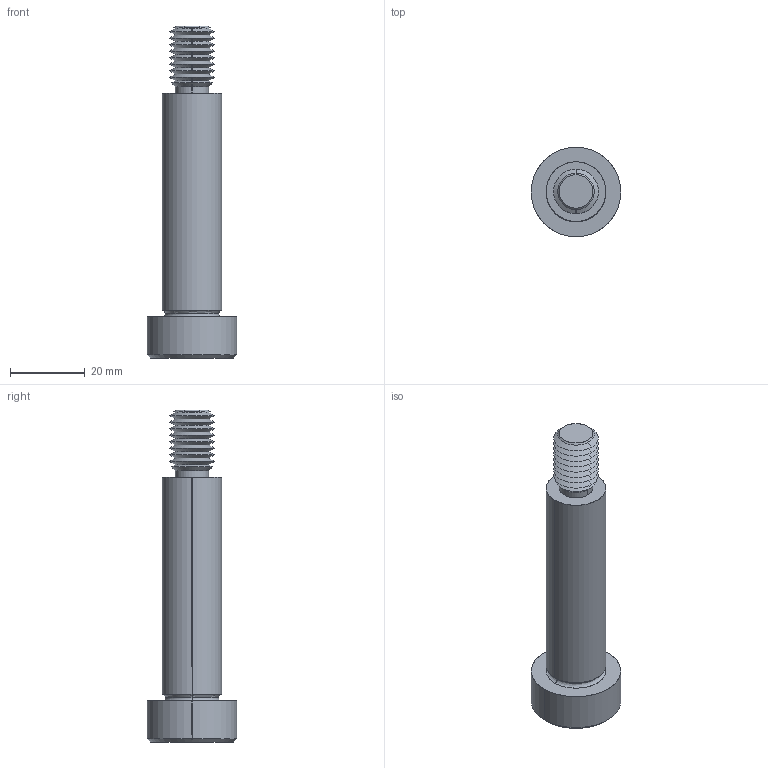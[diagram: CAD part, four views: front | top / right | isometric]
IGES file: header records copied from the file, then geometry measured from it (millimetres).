
Start section: SolidWorks IGES file using analytic representation for surfaces
Global section: file name: C:\Users\IanO\Documents\Temp Folder\GENERAL\SCREW REVISION\P0130_v2\P0130.T5_v2_20220106_IGES\P0130.160-060-T5.igs; native system: SolidWorks 2019; preprocessor: SolidWorks 2019; author: IanO; date: 220106.225551; units: millimetre
Bounding box: 24 x 24 x 89 mm (x, y, z)
Surface area: 6062.5 mm2 (no closed solid volume)
Topology: 0 solids, 0 shells, 76 faces, 588 edges, 586 vertices
Faces by surface type: revolution 56, bspline 20
